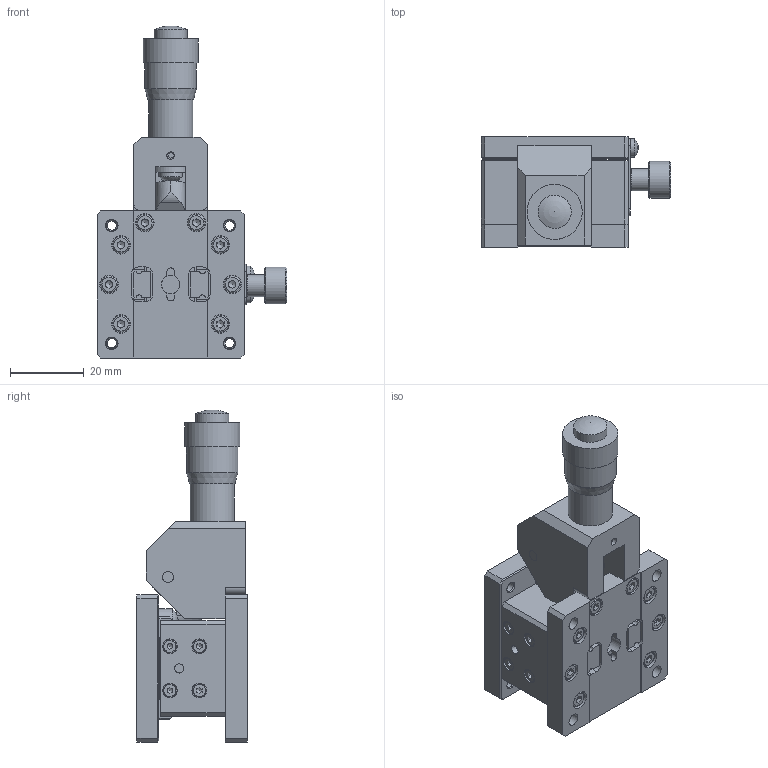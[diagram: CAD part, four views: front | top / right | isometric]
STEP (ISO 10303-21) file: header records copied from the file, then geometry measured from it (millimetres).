
FILE_DESCRIPTION (( 'STEP AP203' ), '1' );
FILE_NAME ('BLBZ40.STEP', '2024-07-08T06:17:33', ( 'Windows User' ), ( 'P R C' ), 'SwSTEP 2.0', 'SolidWorks 2024', '' );
FILE_SCHEMA (( 'CONFIG_CONTROL_DESIGN' ));
Length unit declared in the file: millimetre
Products named in the file (1): BLBZ40
Bounding box: 51.6 x 30 x 90.23 mm (x, y, z)
Volume: 46385.9 mm3; surface area: 34376.1 mm2
Topology: 42 solids, 42 shells, 1276 faces, 3110 edges, 1999 vertices
Faces by surface type: plane 817, cylinder 313, cone 96, torus 27, bspline 19, sphere 4
Full cylindrical faces by diameter (mm): 1.2 x4, 1.567 x8, 1.6 x4, 2 x8, 2.05 x13, 2.4 x12, 2.5 x25, 2.9 x10, 3 x7, 3.4 x6, 3.8 x8, 4 x8, 4.2 x4, 4.5 x8, 5 x12, 5.5 x2, 6 x7, 6.3 x1, 6.35 x3, 8.5 x1, 9 x1, 9.5 x2, 10 x1, 12 x1, 13.6 x1, 14 x1, 15 x1
Entity records: 38026 total; most frequent: CARTESIAN_POINT 8944, DIRECTION 6019, ORIENTED_EDGE 5532, EDGE_CURVE 2766, AXIS2_PLACEMENT_3D 2113, VERTEX_POINT 1930, VECTOR 1793, LINE 1793
